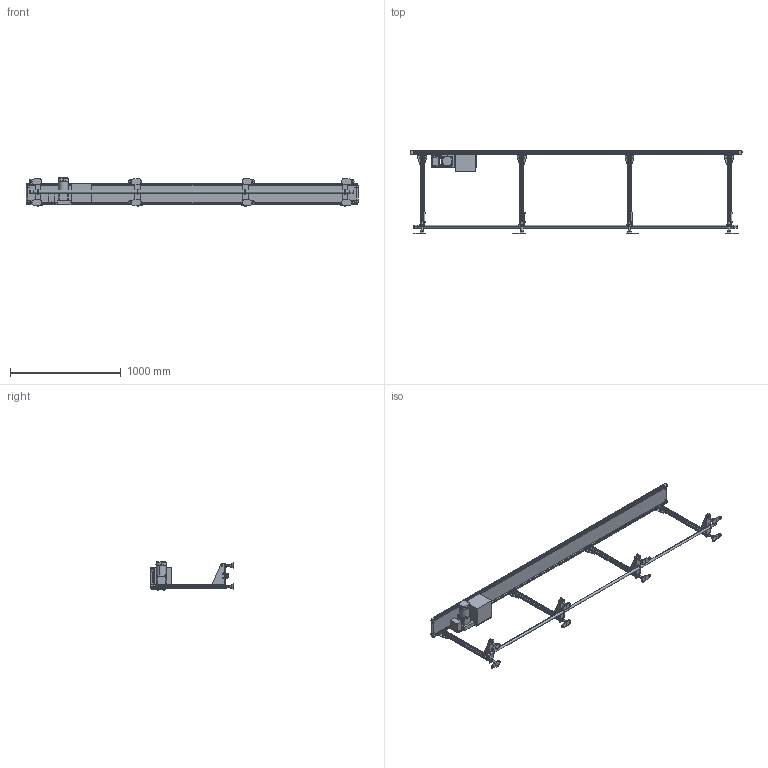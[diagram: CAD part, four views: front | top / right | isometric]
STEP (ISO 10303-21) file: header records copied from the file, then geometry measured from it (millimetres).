
FILE_DESCRIPTION( (''), '2;1');
FILE_NAME ('MM2K-309-150-300-K-180-O.stp','2025-02-17T13:23:23',(''),(''),'spGate 20.6.2 (****-****-****-****)','','');
FILE_SCHEMA (('AUTOMOTIVE_DESIGN'));
Length unit declared in the file: millimetre
Products named in the file (67): NewModel; MMX2K-90-150-3000; TEMP_X_T-prt0; TEMP_X_T-prt1; TEMP_X_T-prt2; TEMP_X_T-prt3; TEMP_X_T-prt4; TEMP_X_T-prt5; TEMP_X_T-prt6; TEMP_X_T-prt7; TEMP_X_T-prt8; TEMP_X_T-prt9; TEMP_X_T-prt10; TEMP_X_T-prt11; TEMP_X_T-prt12; TEMP_X_T-prt13; TEMP_X_T-prt14; TEMP_X_T-prt15; TEMP_X_T-prt16; TEMP_X_T-prt17; TEMP_X_T-prt18; TEMP_X_T-prt19; TEMP_X_T-prt20; TEMP_X_T-prt21; TEMP_X_T-prt22; TEMP_X_T-prt23; TEMP_X_T-prt24; TEMP_X_T-prt25; TEMP_X_T-prt26; TEMP_X_T-prt27; TEMP_X_T-prt28; TEMP_X_T-prt29; TEMP_X_T-prt30; TEMP_X_T-prt31; TEMP_X_T-prt32; TEMP_X_T-prt33; TEMP_X_T-prt34; TEMP_X_T-prt35; TEMP_X_T-prt36; TEMP_X_T-prt37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
Assembly tree (66 placements, depth 3):
  NewModel
    MMX2K-90-150-3000
      TEMP_X_T-prt0
      TEMP_X_T-prt1
      TEMP_X_T-prt2
      TEMP_X_T-prt3
      TEMP_X_T-prt4
      TEMP_X_T-prt5
      TEMP_X_T-prt6
      TEMP_X_T-prt7
      TEMP_X_T-prt8
      TEMP_X_T-prt9
      TEMP_X_T-prt10
      TEMP_X_T-prt11
      TEMP_X_T-prt12
      TEMP_X_T-prt13
      TEMP_X_T-prt14
      TEMP_X_T-prt15
      TEMP_X_T-prt16
      TEMP_X_T-prt17
      TEMP_X_T-prt18
      TEMP_X_T-prt19
      TEMP_X_T-prt20
      TEMP_X_T-prt21
      TEMP_X_T-prt22
      TEMP_X_T-prt23
      TEMP_X_T-prt24
      TEMP_X_T-prt25
      TEMP_X_T-prt26
      TEMP_X_T-prt27
      TEMP_X_T-prt28
      TEMP_X_T-prt29
      TEMP_X_T-prt30
      TEMP_X_T-prt31
      TEMP_X_T-prt32
      TEMP_X_T-prt33
      TEMP_X_T-prt34
      TEMP_X_T-prt35
      TEMP_X_T-prt36
      TEMP_X_T-prt37
      TEMP_X_T-prt38
      TEMP_X_T-prt39
      TEMP_X_T-prt40
      TEMP_X_T-prt41
      TEMP_X_T-prt42
      TEMP_X_T-prt43
      TEMP_X_T-prt44
      TEMP_X_T-prt45
      TEMP_X_T-prt46
      TEMP_X_T-prt47
      TEMP_X_T-prt48
      TEMP_X_T-prt49
      TEMP_X_T-prt50
      TEMP_X_T-prt51
      TEMP_X_T-prt52
      TEMP_X_T-prt53
      TEMP_X_T-prt54
      TEMP_X_T-prt55
      TEMP_X_T-prt56
      TEMP_X_T-prt57
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Bounding box: 3001.6 x 752.8 x 254.1 mm (x, y, z)
Volume: 17341170.4 mm3; surface area: 5634586.4 mm2
Topology: 65 solids, 65 shells, 2267 faces, 5394 edges, 3411 vertices
Faces by surface type: plane 1559, cylinder 513, bspline 195
Entity records: 113442 total; most frequent: CARTESIAN_POINT 15409, ORIENTED_EDGE 10768, DIRECTION 10637, COLOUR_RGB 7716, PRESENTATION_STYLE_ASSIGNMENT 7716, STYLED_ITEM 7716, EDGE_CURVE 5384, DRAUGHTING_PRE_DEFINED_CURVE_FONT 5384
